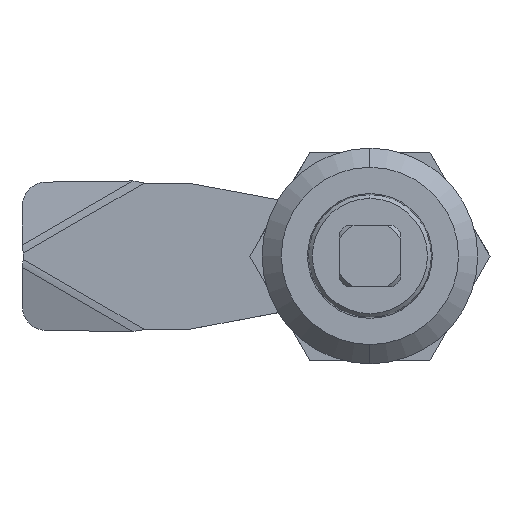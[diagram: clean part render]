
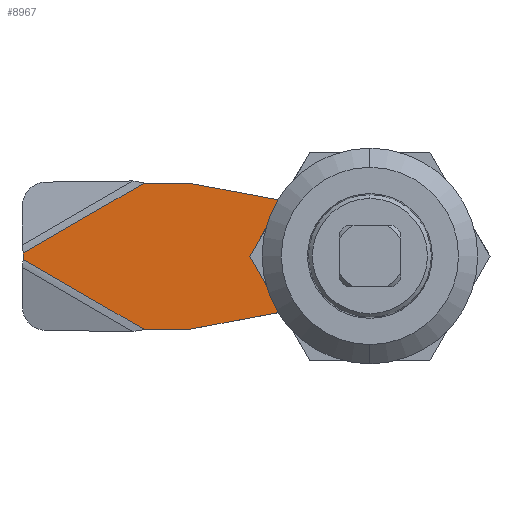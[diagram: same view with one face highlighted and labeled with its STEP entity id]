
A CAD part, top view. The second image highlights one B-rep face of the part: STEP entity #8967.
In plain terms, the highlighted planar face has unit normal (0, 0, 1).
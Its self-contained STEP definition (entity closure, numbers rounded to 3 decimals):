
#49 = DIRECTION ( 'NONE',  ( 0., -1., 0. ) ) ;
#96 = CARTESIAN_POINT ( 'NONE',  ( 10.463, 7.043, 3. ) ) ;
#146 = EDGE_LOOP ( 'NONE', ( #9386, #3499, #8333, #4708, #10734, #2964, #8767, #9871, #11018, #5013, #8341, #5137, #6392 ) ) ;
#160 = VECTOR ( 'NONE', #49, 1000. ) ;
#188 = LINE ( 'NONE', #9936, #7191 ) ;
#198 = AXIS2_PLACEMENT_3D ( 'NONE', #10510, #7680, #1964 ) ;
#241 = EDGE_CURVE ( 'NONE', #2171, #5117, #266, .T. ) ;
#266 = LINE ( 'NONE', #3449, #10099 ) ;
#270 = EDGE_CURVE ( 'NONE', #5511, #8983, #12332, .T. ) ;
#363 = VERTEX_POINT ( 'NONE', #5332 ) ;
#374 = EDGE_CURVE ( 'NONE', #11445, #6576, #1902, .T. ) ;
#986 = AXIS2_PLACEMENT_3D ( 'NONE', #3623, #10273, #4582 ) ;
#1217 = CARTESIAN_POINT ( 'NONE',  ( 9.593, -7.033, 3. ) ) ;
#1262 = ORIENTED_EDGE ( 'NONE', *, *, #7489, .T. ) ;
#1368 = CIRCLE ( 'NONE', #6883, 8.5 ) ;
#1401 = CARTESIAN_POINT ( 'NONE',  ( 23.5, 9.5, 3. ) ) ;
#1451 = AXIS2_PLACEMENT_3D ( 'NONE', #7573, #1858, #8525 ) ;
#1521 = LINE ( 'NONE', #5542, #11642 ) ;
#1554 = DIRECTION ( 'NONE',  ( -1., 0., 0. ) ) ;
#1614 = ORIENTED_EDGE ( 'NONE', *, *, #11028, .T. ) ;
#1858 = DIRECTION ( 'NONE',  ( 0., 0., 1. ) ) ;
#1877 = DIRECTION ( 'NONE',  ( -0.983, -0.185, 0. ) ) ;
#1885 = LINE ( 'NONE', #1217, #9179 ) ;
#1902 = LINE ( 'NONE', #6861, #11727 ) ;
#1956 = CIRCLE ( 'NONE', #3077, 2.5 ) ;
#1957 = CARTESIAN_POINT ( 'NONE',  ( 10.463, 7.043, 3. ) ) ;
#1964 = DIRECTION ( 'NONE',  ( -1., 0., 0. ) ) ;
#2021 = CARTESIAN_POINT ( 'NONE',  ( 4.05, -4.05, 3. ) ) ;
#2163 = DIRECTION ( 'NONE',  ( 0.987, 0.163, 0. ) ) ;
#2171 = VERTEX_POINT ( 'NONE', #8795 ) ;
#2747 = CIRCLE ( 'NONE', #986, 8.5 ) ;
#2897 = PLANE ( 'NONE',  #198 ) ;
#2964 = ORIENTED_EDGE ( 'NONE', *, *, #11104, .T. ) ;
#3010 = LINE ( 'NONE', #3864, #160 ) ;
#3022 = CARTESIAN_POINT ( 'NONE',  ( 1.383, 8.387, 3. ) ) ;
#3077 = AXIS2_PLACEMENT_3D ( 'NONE', #9071, #3395, #10050 ) ;
#3173 = CARTESIAN_POINT ( 'NONE',  ( -4.05, 4.05, 3. ) ) ;
#3369 = EDGE_CURVE ( 'NONE', #363, #9025, #2747, .T. ) ;
#3395 = DIRECTION ( 'NONE',  ( 0., 0., 1. ) ) ;
#3446 = CARTESIAN_POINT ( 'NONE',  ( 4.05, -4.05, 3. ) ) ;
#3449 = CARTESIAN_POINT ( 'NONE',  ( 45., -0.433, 3. ) ) ;
#3499 = ORIENTED_EDGE ( 'NONE', *, *, #6069, .F. ) ;
#3623 = CARTESIAN_POINT ( 'NONE',  ( 0., 0., 3. ) ) ;
#3641 = VECTOR ( 'NONE', #1554, 1000. ) ;
#3698 = ORIENTED_EDGE ( 'NONE', *, *, #6398, .T. ) ;
#3755 = VERTEX_POINT ( 'NONE', #7159 ) ;
#3783 = CARTESIAN_POINT ( 'NONE',  ( 0., 0., 3. ) ) ;
#3822 = LINE ( 'NONE', #7715, #11102 ) ;
#3864 = CARTESIAN_POINT ( 'NONE',  ( 4.05, 4.05, 3. ) ) ;
#3930 = CARTESIAN_POINT ( 'NONE',  ( 4.05, 4.05, 3. ) ) ;
#4156 = FACE_BOUND ( 'NONE', #5285, .T. ) ;
#4410 = DIRECTION ( 'NONE',  ( -0.866, -0.5, 0. ) ) ;
#4582 = DIRECTION ( 'NONE',  ( -1., 0., 0. ) ) ;
#4613 = VERTEX_POINT ( 'NONE', #3930 ) ;
#4700 = CARTESIAN_POINT ( 'NONE',  ( 45., 6.5, 3. ) ) ;
#4708 = ORIENTED_EDGE ( 'NONE', *, *, #270, .T. ) ;
#4731 = DIRECTION ( 'NONE',  ( -1., 0., 0. ) ) ;
#4777 = VERTEX_POINT ( 'NONE', #8883 ) ;
#4962 = CARTESIAN_POINT ( 'NONE',  ( -4.05, 4.05, 3. ) ) ;
#5013 = ORIENTED_EDGE ( 'NONE', *, *, #11883, .F. ) ;
#5038 = EDGE_CURVE ( 'NONE', #3755, #5511, #8363, .T. ) ;
#5066 = ORIENTED_EDGE ( 'NONE', *, *, #12097, .T. ) ;
#5117 = VERTEX_POINT ( 'NONE', #5691 ) ;
#5137 = ORIENTED_EDGE ( 'NONE', *, *, #10227, .T. ) ;
#5285 = EDGE_LOOP ( 'NONE', ( #3698, #1614, #1262, #5066 ) ) ;
#5332 = CARTESIAN_POINT ( 'NONE',  ( -8.5, 0., 3. ) ) ;
#5336 = LINE ( 'NONE', #4700, #9793 ) ;
#5353 = VECTOR ( 'NONE', #1877, 1000. ) ;
#5438 = CARTESIAN_POINT ( 'NONE',  ( 9.593, 7.033, 3. ) ) ;
#5511 = VERTEX_POINT ( 'NONE', #1401 ) ;
#5542 = CARTESIAN_POINT ( 'NONE',  ( 29.295, 9.5, 3. ) ) ;
#5577 = DIRECTION ( 'NONE',  ( -1., 0., 0. ) ) ;
#5691 = CARTESIAN_POINT ( 'NONE',  ( 29.295, -9.5, 3. ) ) ;
#5706 = CARTESIAN_POINT ( 'NONE',  ( 45., 0.433, 3. ) ) ;
#6069 = EDGE_CURVE ( 'NONE', #3755, #8418, #1521, .T. ) ;
#6147 = EDGE_CURVE ( 'NONE', #7123, #8983, #8530, .T. ) ;
#6175 = DIRECTION ( 'NONE',  ( 0., 1., 0. ) ) ;
#6186 = VERTEX_POINT ( 'NONE', #4962 ) ;
#6392 = ORIENTED_EDGE ( 'NONE', *, *, #241, .F. ) ;
#6398 = EDGE_CURVE ( 'NONE', #8484, #12275, #11211, .T. ) ;
#6455 = DIRECTION ( 'NONE',  ( 0.866, -0.5, 0. ) ) ;
#6576 = VERTEX_POINT ( 'NONE', #9501 ) ;
#6660 = FACE_OUTER_BOUND ( 'NONE', #146, .T. ) ;
#6678 = VERTEX_POINT ( 'NONE', #10546 ) ;
#6861 = CARTESIAN_POINT ( 'NONE',  ( 10.463, -7.043, 3. ) ) ;
#6883 = AXIS2_PLACEMENT_3D ( 'NONE', #3783, #10431, #4731 ) ;
#7123 = VERTEX_POINT ( 'NONE', #5438 ) ;
#7159 = CARTESIAN_POINT ( 'NONE',  ( 29.295, 9.5, 3. ) ) ;
#7191 = VECTOR ( 'NONE', #6175, 1000. ) ;
#7438 = CARTESIAN_POINT ( 'NONE',  ( 42., 9.5, 3. ) ) ;
#7489 = EDGE_CURVE ( 'NONE', #6186, #4613, #7870, .T. ) ;
#7573 = CARTESIAN_POINT ( 'NONE',  ( 10., 9.5, 3. ) ) ;
#7680 = DIRECTION ( 'NONE',  ( 0., 0., -1. ) ) ;
#7715 = CARTESIAN_POINT ( 'NONE',  ( 42., -9.5, 3. ) ) ;
#7782 = CARTESIAN_POINT ( 'NONE',  ( 10.463, -7.043, 3. ) ) ;
#7870 = LINE ( 'NONE', #3173, #8461 ) ;
#8064 = VECTOR ( 'NONE', #5577, 1000. ) ;
#8124 = EDGE_CURVE ( 'NONE', #6678, #4777, #1885, .T. ) ;
#8191 = CARTESIAN_POINT ( 'NONE',  ( 9.593, 7.033, 3. ) ) ;
#8333 = ORIENTED_EDGE ( 'NONE', *, *, #5038, .T. ) ;
#8341 = ORIENTED_EDGE ( 'NONE', *, *, #374, .T. ) ;
#8363 = LINE ( 'NONE', #7438, #8064 ) ;
#8418 = VERTEX_POINT ( 'NONE', #5706 ) ;
#8461 = VECTOR ( 'NONE', #10793, 1000. ) ;
#8484 = VERTEX_POINT ( 'NONE', #2021 ) ;
#8525 = DIRECTION ( 'NONE',  ( -1., 0., 0. ) ) ;
#8530 = CIRCLE ( 'NONE', #1451, 2.5 ) ;
#8662 = DIRECTION ( 'NONE',  ( 1., 0., 0. ) ) ;
#8767 = ORIENTED_EDGE ( 'NONE', *, *, #3369, .F. ) ;
#8795 = CARTESIAN_POINT ( 'NONE',  ( 45., -0.433, 3. ) ) ;
#8814 = VECTOR ( 'NONE', #9137, 1000. ) ;
#8883 = CARTESIAN_POINT ( 'NONE',  ( 9.593, -7.033, 3. ) ) ;
#8908 = EDGE_CURVE ( 'NONE', #2171, #8418, #5336, .T. ) ;
#8932 = CARTESIAN_POINT ( 'NONE',  ( -4.05, -4.05, 3. ) ) ;
#8967 = ADVANCED_FACE ( 'NONE', ( #4156, #6660 ), #2897, .F. ) ;
#8983 = VERTEX_POINT ( 'NONE', #96 ) ;
#9025 = VERTEX_POINT ( 'NONE', #3022 ) ;
#9071 = CARTESIAN_POINT ( 'NONE',  ( 10., -9.5, 3. ) ) ;
#9110 = LINE ( 'NONE', #8191, #8814 ) ;
#9137 = DIRECTION ( 'NONE',  ( -0.987, 0.163, 0. ) ) ;
#9179 = VECTOR ( 'NONE', #2163, 1000. ) ;
#9386 = ORIENTED_EDGE ( 'NONE', *, *, #8908, .T. ) ;
#9467 = DIRECTION ( 'NONE',  ( 0., 1., 0. ) ) ;
#9501 = CARTESIAN_POINT ( 'NONE',  ( 23.5, -9.5, 3. ) ) ;
#9793 = VECTOR ( 'NONE', #9467, 1000. ) ;
#9871 = ORIENTED_EDGE ( 'NONE', *, *, #12018, .F. ) ;
#9936 = CARTESIAN_POINT ( 'NONE',  ( -4.05, -4.05, 3. ) ) ;
#10050 = DIRECTION ( 'NONE',  ( -1., 0., 0. ) ) ;
#10099 = VECTOR ( 'NONE', #4410, 1000. ) ;
#10227 = EDGE_CURVE ( 'NONE', #6576, #5117, #3822, .T. ) ;
#10273 = DIRECTION ( 'NONE',  ( 0., 0., -1. ) ) ;
#10431 = DIRECTION ( 'NONE',  ( 0., 0., -1. ) ) ;
#10510 = CARTESIAN_POINT ( 'NONE',  ( 10., -9.5, 3. ) ) ;
#10546 = CARTESIAN_POINT ( 'NONE',  ( 1.383, -8.387, 3. ) ) ;
#10734 = ORIENTED_EDGE ( 'NONE', *, *, #6147, .F. ) ;
#10793 = DIRECTION ( 'NONE',  ( 1., 0., 0. ) ) ;
#11018 = ORIENTED_EDGE ( 'NONE', *, *, #8124, .T. ) ;
#11028 = EDGE_CURVE ( 'NONE', #12275, #6186, #188, .T. ) ;
#11102 = VECTOR ( 'NONE', #8662, 1000. ) ;
#11104 = EDGE_CURVE ( 'NONE', #7123, #9025, #9110, .T. ) ;
#11211 = LINE ( 'NONE', #3446, #3641 ) ;
#11445 = VERTEX_POINT ( 'NONE', #7782 ) ;
#11599 = DIRECTION ( 'NONE',  ( 0.983, -0.185, 0. ) ) ;
#11642 = VECTOR ( 'NONE', #6455, 1000. ) ;
#11727 = VECTOR ( 'NONE', #11599, 1000. ) ;
#11883 = EDGE_CURVE ( 'NONE', #11445, #4777, #1956, .T. ) ;
#12018 = EDGE_CURVE ( 'NONE', #6678, #363, #1368, .T. ) ;
#12097 = EDGE_CURVE ( 'NONE', #4613, #8484, #3010, .T. ) ;
#12275 = VERTEX_POINT ( 'NONE', #8932 ) ;
#12332 = LINE ( 'NONE', #1957, #5353 ) ;
